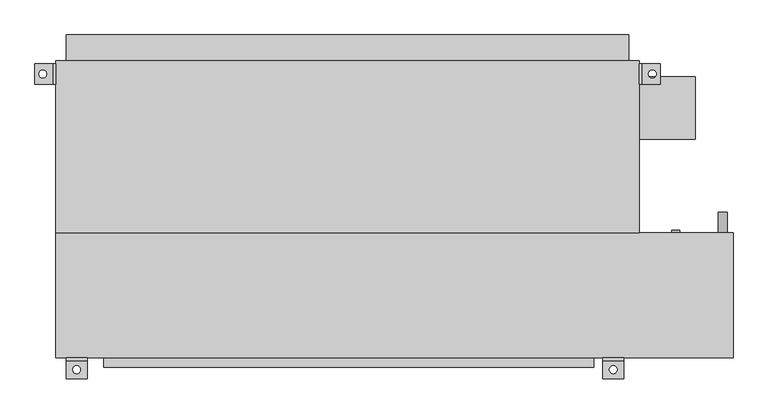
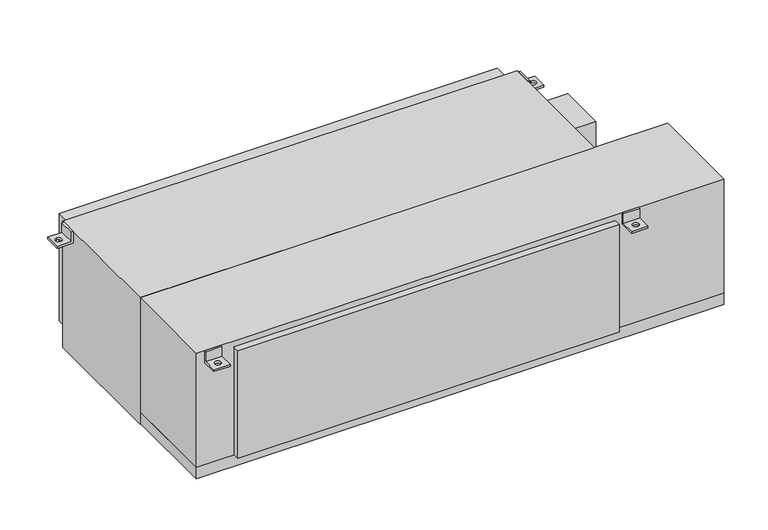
"""IFC4 building model written with IfcOpenShell, lengths in millimetres: proxy geometry, Concealed_High_Capacity_Horizontal_Fan_Coil_Unit_With_Plenum_-_42DCA_-_CARRIER_-_2-Pipe_Cool-EHeat_ValveEnclosure_RH_2022 : Size 20 - 277v/60Hz/1Ph - 6 Row 14.0kW."""

from ifc_helpers import new_model, si_unit, point, frame, frame_2d, origin, place, context, project, spatial, polyline, circle_curve, trimmed, segment, composite_curve, outline, extrude, source, transform, mapped, element, save
from ifc_brep_helpers import plane_surface, revolved_surface, advanced_brep


def mechanical_equipment_af64897e(model_context):
    return source(origin(), model_context, "Body", "SolidModel", [
        advanced_brep(
        [(825.5, -390.525, 0.0), (825.5, -396.875, 0.0), (825.5, -396.875, -31.75), (825.5, -441.325, -31.75), (825.5, -441.325, -38.1), (825.5, -390.525, -38.1), (774.7, -390.525, 0.0), (774.7, -390.525, -38.1), (774.7, -441.325, -38.1), (774.7, -441.325, -31.75), (774.7, -396.875, -31.75), (774.7, -396.875, 0.0), (790.575, -419.1, -31.75), (809.625, -419.1, -31.75), (809.625, -419.1, -38.1), (790.575, -419.1, -38.1)],
        [
            (0, 1),
            (1, 2),
            (2, 3),
            (3, 4),
            (4, 5),
            (5, 0),
            (6, 7),
            (7, 8),
            (8, 9),
            (9, 10),
            (10, 11),
            (11, 6),
            (0, 6),
            (11, 1),
            (10, 2),
            (9, 3),
            (12, 13, circle_curve(frame((800.1, -419.1, -31.75), z_axis=(0.0, 0.0, -1.0), x_axis=(1.0, 0.0, 0.0)), 9.525)),
            (13, 12, circle_curve(frame((800.1, -419.1, -31.75), z_axis=(0.0, 0.0, -1.0), x_axis=(1.0, 0.0, 0.0)), 9.525)),
            (8, 4),
            (7, 5),
            (14, 15, circle_curve(frame((800.1, -419.1, -38.1), z_axis=(0.0, 0.0, 1.0), x_axis=(1.0, 0.0, 0.0)), 9.525)),
            (15, 14, circle_curve(frame((800.1, -419.1, -38.1), z_axis=(0.0, 0.0, 1.0), x_axis=(1.0, 0.0, 0.0)), 9.525)),
            (12, 15),
            (14, 13),
        ],
        [
            plane_surface(frame((825.5, -396.875, 0.0), z_axis=(1.0, 0.0, 0.0), x_axis=(0.0, -1.0, 0.0))),
            plane_surface(frame((774.7, -396.875, 0.0), z_axis=(-1.0, 0.0, 0.0), x_axis=(0.0, 1.0, 0.0))),
            plane_surface(frame((825.5, -390.525, 0.0), z_axis=(0.0, 0.0, 1.0), x_axis=(-1.0, 0.0, 0.0))),
            plane_surface(frame((825.5, -396.875, 0.0), z_axis=(0.0, -1.0, 0.0), x_axis=(-1.0, 0.0, 0.0))),
            plane_surface(frame((825.5, -396.875, -31.75), z_axis=(0.0, 0.0, 1.0), x_axis=(-1.0, 0.0, 0.0))),
            plane_surface(frame((825.5, -441.325, -31.75), z_axis=(0.0, -1.0, 0.0), x_axis=(-1.0, 0.0, 0.0))),
            plane_surface(frame((825.5, -441.325, -38.1), z_axis=(0.0, 0.0, -1.0), x_axis=(-1.0, 0.0, 0.0))),
            plane_surface(frame((825.5, -390.525, -38.1), z_axis=(0.0, 1.0, 0.0), x_axis=(-1.0, 0.0, 0.0))),
            revolved_surface(polyline([(809.625, -419.1, -38.1), (809.625, -419.1, -31.75)]), (800.1, -419.1, -31.75), (0.0, 0.0, -1.0)),
        ],
        [
            (0, [[1, 2, 3, 4, 5, 6]]),
            (1, [[7, 8, 9, 10, 11, 12]]),
            (2, [[-1, 13, -12, 14]]),
            (3, [[-2, -14, -11, 15]]),
            (4, [[-3, -15, -10, 16], [17, 18]]),
            (5, [[-4, -16, -9, 19]]),
            (6, [[-5, -19, -8, 20], [21, 22]]),
            (7, [[-6, -20, -7, -13]]),
            (8, [[23, -21, 24, -17]]),
            (8, [[-23, -18, -24, -22]]),
        ],
    ),
        advanced_brep(
        [(-482.6, -390.525, -38.1), (-482.6, -390.525, 0.0), (-482.6, -396.875, 0.0), (-482.6, -396.875, -31.75), (-482.6, -441.325, -31.75), (-482.6, -441.325, -38.1), (-533.4, -390.525, -38.1), (-533.4, -441.325, -38.1), (-533.4, -441.325, -31.75), (-533.4, -396.875, -31.75), (-533.4, -396.875, 0.0), (-533.4, -390.525, 0.0), (-517.525, -419.1, -31.75), (-498.475, -419.1, -31.75), (-498.475, -419.1, -38.1), (-517.525, -419.1, -38.1)],
        [
            (0, 1),
            (1, 2),
            (2, 3),
            (3, 4),
            (4, 5),
            (5, 0),
            (6, 7),
            (7, 8),
            (8, 9),
            (9, 10),
            (10, 11),
            (11, 6),
            (0, 6),
            (11, 1),
            (10, 2),
            (9, 3),
            (8, 4),
            (12, 13, circle_curve(frame((-508.0, -419.1, -31.75), z_axis=(0.0, 0.0, -1.0), x_axis=(1.0, 0.0, 0.0)), 9.525)),
            (13, 12, circle_curve(frame((-508.0, -419.1, -31.75), z_axis=(0.0, 0.0, -1.0), x_axis=(1.0, 0.0, 0.0)), 9.525)),
            (7, 5),
            (14, 15, circle_curve(frame((-508.0, -419.1, -38.1), z_axis=(0.0, 0.0, 1.0), x_axis=(1.0, 0.0, 0.0)), 9.525)),
            (15, 14, circle_curve(frame((-508.0, -419.1, -38.1), z_axis=(0.0, 0.0, 1.0), x_axis=(1.0, 0.0, 0.0)), 9.525)),
            (12, 15),
            (14, 13),
        ],
        [
            plane_surface(frame((-482.6, -390.525, -38.1), z_axis=(1.0, 0.0, 0.0), x_axis=(0.0, 0.0, 1.0))),
            plane_surface(frame((-533.4, -390.525, -38.1), z_axis=(-1.0, 0.0, 0.0), x_axis=(0.0, 0.0, -1.0))),
            plane_surface(frame((-482.6, -390.525, -38.1), z_axis=(0.0, 1.0, 0.0), x_axis=(-1.0, 0.0, 0.0))),
            plane_surface(frame((-482.6, -390.525, 0.0), z_axis=(0.0, 0.0, 1.0), x_axis=(-1.0, 0.0, 0.0))),
            plane_surface(frame((-482.6, -396.875, 0.0), z_axis=(0.0, -1.0, 0.0), x_axis=(-1.0, 0.0, 0.0))),
            plane_surface(frame((-482.6, -396.875, -31.75), z_axis=(0.0, 0.0, 1.0), x_axis=(-1.0, 0.0, 0.0))),
            plane_surface(frame((-482.6, -441.325, -31.75), z_axis=(0.0, -1.0, 0.0), x_axis=(-1.0, 0.0, 0.0))),
            plane_surface(frame((-482.6, -441.325, -38.1), z_axis=(0.0, 0.0, -1.0), x_axis=(-1.0, 0.0, 0.0))),
            revolved_surface(polyline([(-498.475, -419.1, -38.1), (-498.475, -419.1, -31.75)]), (-508.0, -419.1, -31.75), (0.0, 0.0, -1.0)),
        ],
        [
            (0, [[1, 2, 3, 4, 5, 6]]),
            (1, [[7, 8, 9, 10, 11, 12]]),
            (2, [[-1, 13, -12, 14]]),
            (3, [[-2, -14, -11, 15]]),
            (4, [[-3, -15, -10, 16]]),
            (5, [[-4, -16, -9, 17], [18, 19]]),
            (6, [[-5, -17, -8, 20]]),
            (7, [[-6, -20, -7, -13], [21, 22]]),
            (8, [[23, -21, 24, -18]]),
            (8, [[-23, -19, -24, -22]]),
        ],
    ),
        extrude(outline(composite_curve([segment(trimmed(circle_curve(frame_2d((-400.05, 1066.8)), 11.1125), [point((-400.05, 1055.6875))], [point((-400.05, 1077.9125))], False, "CARTESIAN"), True, "CONTINUOUS"), segment(trimmed(circle_curve(frame_2d((-400.05, 1066.8)), 11.1125), [point((-400.05, 1077.9125))], [point((-400.05, 1055.6875))], False, "CARTESIAN"), True, "CONTINUOUS")], self_intersect=False)), frame((0.0, -85.725, 0.0), z_axis=(0.0, 1.0, 0.0), x_axis=(0.0, 0.0, 1.0)), (0.0, 0.0, 1.0), 50.8),
        extrude(outline(composite_curve([segment(trimmed(circle_curve(frame_2d((-44.45, 952.5)), 9.525), [point((-44.45, 942.975))], [point((-44.45, 962.025))], False, "CARTESIAN"), True, "CONTINUOUS"), segment(trimmed(circle_curve(frame_2d((-44.45, 952.5)), 9.525), [point((-44.45, 962.025))], [point((-44.45, 942.975))], False, "CARTESIAN"), True, "CONTINUOUS")], self_intersect=False)), frame((0.0, -85.725, 0.0), z_axis=(0.0, 1.0, 0.0), x_axis=(0.0, 0.0, 1.0)), (0.0, 0.0, 1.0), 6.35),
        extrude(outline(composite_curve([segment(trimmed(circle_curve(frame_2d((-276.225, 952.5)), 9.525), [point((-276.225, 942.975))], [point((-276.225, 962.025))], False, "CARTESIAN"), True, "CONTINUOUS"), segment(trimmed(circle_curve(frame_2d((-276.225, 952.5)), 9.525), [point((-276.225, 962.025))], [point((-276.225, 942.975))], False, "CARTESIAN"), True, "CONTINUOUS")], self_intersect=False)), frame((0.0, -85.725, 0.0), z_axis=(0.0, 1.0, 0.0), x_axis=(0.0, 0.0, 1.0)), (0.0, 0.0, 1.0), 6.35),
        advanced_brep(
        [(-558.8, 327.025, -38.1), (-609.6, 327.025, -38.1), (-609.6, 327.025, -31.75), (-565.15, 327.025, -31.75), (-565.15, 327.025, 0.0), (-558.8, 327.025, 0.0), (-558.8, 276.225, -38.1), (-558.8, 276.225, 0.0), (-565.15, 276.225, 0.0), (-565.15, 276.225, -31.75), (-609.6, 276.225, -31.75), (-609.6, 276.225, -38.1), (-590.55, 292.1, -38.1), (-590.55, 311.15, -38.1), (-590.55, 311.15, -31.75), (-590.55, 292.1, -31.75)],
        [
            (0, 1),
            (1, 2),
            (2, 3),
            (3, 4),
            (4, 5),
            (5, 0),
            (6, 7),
            (7, 8),
            (8, 9),
            (9, 10),
            (10, 11),
            (11, 6),
            (0, 6),
            (11, 1),
            (12, 13, circle_curve(frame((-590.55, 301.625, -38.1), z_axis=(0.0, 0.0, 1.0), x_axis=(0.0, -1.0, 0.0)), 9.525)),
            (13, 12, circle_curve(frame((-590.55, 301.625, -38.1), z_axis=(0.0, 0.0, 1.0), x_axis=(0.0, -1.0, 0.0)), 9.525)),
            (10, 2),
            (9, 3),
            (14, 15, circle_curve(frame((-590.55, 301.625, -31.75), z_axis=(0.0, 0.0, -1.0), x_axis=(0.0, -1.0, 0.0)), 9.525)),
            (15, 14, circle_curve(frame((-590.55, 301.625, -31.75), z_axis=(0.0, 0.0, -1.0), x_axis=(0.0, -1.0, 0.0)), 9.525)),
            (8, 4),
            (7, 5),
            (14, 13),
            (12, 15),
        ],
        [
            plane_surface(frame((-558.8, 327.025, -38.1), z_axis=(0.0, 1.0, 0.0), x_axis=(-1.0, 0.0, 0.0))),
            plane_surface(frame((-558.8, 276.225, -38.1), z_axis=(0.0, -1.0, 0.0), x_axis=(1.0, 0.0, 0.0))),
            plane_surface(frame((-558.8, 327.025, -38.1), z_axis=(0.0, 0.0, -1.0), x_axis=(0.0, -1.0, 0.0))),
            plane_surface(frame((-609.6, 327.025, -38.1), z_axis=(-1.0, 0.0, 0.0), x_axis=(0.0, -1.0, 0.0))),
            plane_surface(frame((-609.6, 327.025, -31.75), z_axis=(0.0, 0.0, 1.0), x_axis=(0.0, -1.0, 0.0))),
            plane_surface(frame((-565.15, 327.025, -31.75), z_axis=(-1.0, 0.0, 0.0), x_axis=(0.0, -1.0, 0.0))),
            plane_surface(frame((-565.15, 327.025, 0.0), z_axis=(0.0, 0.0, 1.0), x_axis=(0.0, -1.0, 0.0))),
            plane_surface(frame((-558.8, 327.025, 0.0), z_axis=(1.0, 0.0, 0.0), x_axis=(0.0, -1.0, 0.0))),
            revolved_surface(polyline([(-590.55, 292.1, -38.1), (-590.55, 292.1, -31.75)]), (-590.55, 301.625, -31.75), (0.0, 0.0, -1.0)),
        ],
        [
            (0, [[1, 2, 3, 4, 5, 6]]),
            (1, [[7, 8, 9, 10, 11, 12]]),
            (2, [[-1, 13, -12, 14], [15, 16]]),
            (3, [[-2, -14, -11, 17]]),
            (4, [[-3, -17, -10, 18], [19, 20]]),
            (5, [[-4, -18, -9, 21]]),
            (6, [[-5, -21, -8, 22]]),
            (7, [[-6, -22, -7, -13]]),
            (8, [[23, -15, 24, -19]]),
            (8, [[-23, -20, -24, -16]]),
        ],
    ),
        advanced_brep(
        [(863.6, 327.025, -38.1), (863.6, 327.025, 0.0), (869.95, 327.025, 0.0), (869.95, 327.025, -31.75), (914.4, 327.025, -31.75), (914.4, 327.025, -38.1), (863.6, 276.225, -38.1), (914.4, 276.225, -38.1), (914.4, 276.225, -31.75), (869.95, 276.225, -31.75), (869.95, 276.225, 0.0), (863.6, 276.225, 0.0), (895.35, 311.15, -31.75), (895.35, 292.1, -31.75), (895.35, 292.1, -38.1), (895.35, 311.15, -38.1)],
        [
            (0, 1),
            (1, 2),
            (2, 3),
            (3, 4),
            (4, 5),
            (5, 0),
            (6, 7),
            (7, 8),
            (8, 9),
            (9, 10),
            (10, 11),
            (11, 6),
            (0, 6),
            (11, 1),
            (10, 2),
            (9, 3),
            (8, 4),
            (12, 13, circle_curve(frame((895.35, 301.625, -31.75), z_axis=(0.0, 0.0, -1.0), x_axis=(0.0, -1.0, 0.0)), 9.525)),
            (13, 12, circle_curve(frame((895.35, 301.625, -31.75), z_axis=(0.0, 0.0, -1.0), x_axis=(0.0, -1.0, 0.0)), 9.525)),
            (7, 5),
            (14, 15, circle_curve(frame((895.35, 301.625, -38.1), z_axis=(0.0, 0.0, 1.0), x_axis=(0.0, -1.0, 0.0)), 9.525)),
            (15, 14, circle_curve(frame((895.35, 301.625, -38.1), z_axis=(0.0, 0.0, 1.0), x_axis=(0.0, -1.0, 0.0)), 9.525)),
            (12, 15),
            (14, 13),
        ],
        [
            plane_surface(frame((-558.8, 327.025, -38.1), z_axis=(0.0, 1.0, 0.0), x_axis=(-1.0, 0.0, 0.0))),
            plane_surface(frame((-558.8, 276.225, -38.1), z_axis=(0.0, -1.0, 0.0), x_axis=(1.0, 0.0, 0.0))),
            plane_surface(frame((863.6, 327.025, -38.1), z_axis=(-1.0, 0.0, 0.0), x_axis=(0.0, -1.0, 0.0))),
            plane_surface(frame((863.6, 327.025, 0.0), z_axis=(0.0, 0.0, 1.0), x_axis=(0.0, -1.0, 0.0))),
            plane_surface(frame((869.95, 327.025, 0.0), z_axis=(1.0, 0.0, 0.0), x_axis=(0.0, -1.0, 0.0))),
            plane_surface(frame((869.95, 327.025, -31.75), z_axis=(0.0, 0.0, 1.0), x_axis=(0.0, -1.0, 0.0))),
            plane_surface(frame((914.4, 327.025, -31.75), z_axis=(1.0, 0.0, 0.0), x_axis=(0.0, -1.0, 0.0))),
            plane_surface(frame((914.4, 327.025, -38.1), z_axis=(0.0, 0.0, -1.0), x_axis=(0.0, -1.0, 0.0))),
            revolved_surface(polyline([(895.35, 292.1, -38.1), (895.35, 292.1, -31.75)]), (895.35, 301.625, -31.75), (0.0, 0.0, -1.0)),
        ],
        [
            (0, [[1, 2, 3, 4, 5, 6]]),
            (1, [[7, 8, 9, 10, 11, 12]]),
            (2, [[-1, 13, -12, 14]]),
            (3, [[-2, -14, -11, 15]]),
            (4, [[-3, -15, -10, 16]]),
            (5, [[-4, -16, -9, 17], [18, 19]]),
            (6, [[-5, -17, -8, 20]]),
            (7, [[-6, -20, -7, -13], [21, 22]]),
            (8, [[23, -21, 24, -18]]),
            (8, [[-23, -19, -24, -22]]),
        ],
    ),
        extrude(outline(polyline([(-533.4, 396.875), (838.2, 396.875), (838.2, 333.375), (-533.4, 333.375), (-533.4, 396.875)])), frame((0.0, 0.0, -377.825), z_axis=(0.0, 0.0, 1.0), x_axis=(1.0, 0.0, 0.0)), (0.0, 0.0, 1.0), 355.6),
        extrude(outline(polyline([(1000.125, 295.275), (1000.125, 142.875), (863.6, 142.875), (863.6, 295.275), (1000.125, 295.275)])), frame((0.0, 0.0, -254.0), z_axis=(0.0, 0.0, 1.0), x_axis=(1.0, 0.0, 0.0)), (0.0, 0.0, 1.0), 152.4),
        extrude(outline(polyline([(752.475, -412.75), (-441.325, -412.75), (-441.325, -390.525), (752.475, -390.525), (752.475, -412.75)])), frame((0.0, 0.0, -374.65), z_axis=(0.0, 0.0, 1.0), x_axis=(1.0, 0.0, 0.0)), (0.0, 0.0, 1.0), 355.6),
        extrude(outline(polyline([(863.6, -85.725), (-558.8, -85.725), (-558.8, 333.375), (863.6, 333.375), (863.6, -85.725)])), frame((0.0, 0.0, -419.1), z_axis=(0.0, 0.0, 1.0), x_axis=(1.0, 0.0, 0.0)), (0.0, 0.0, 1.0), 419.1),
        extrude(outline(polyline([(1092.2, -85.725), (1092.2, -390.525), (-558.8, -390.525), (-558.8, -85.725), (1092.2, -85.725)])), frame((0.0, 0.0, -377.825), z_axis=(0.0, 0.0, 1.0), x_axis=(1.0, 0.0, 0.0)), (0.0, 0.0, 1.0), 377.825),
        extrude(outline(polyline([(1092.2, -85.725), (1092.2, -390.525), (-558.8, -390.525), (-558.8, -85.725), (1092.2, -85.725)])), frame((0.0, 0.0, -415.925), z_axis=(0.0, 0.0, 1.0), x_axis=(1.0, 0.0, 0.0)), (0.0, 0.0, 1.0), 38.1),
    ])


if __name__ == "__main__":
    model = new_model("IFC4")
    model_context = context("Model", 3, world=origin())
    ifc_project = project(units=[si_unit("LENGTHUNIT", "METRE", prefix="MILLI")], contexts=[model_context])
    site = spatial("IfcSite", under=ifc_project)
    building = spatial("IfcBuilding", under=site)
    placement = place(None, origin())
    mechanical_equipment_shape = mechanical_equipment_af64897e(model_context)
    element("IfcBuildingElementProxy", 1, Name="Concealed_High_Capacity_Horizontal_Fan_Coil_Unit_With_Plenum_-_42DCA_-_CARRIER_-_2-Pipe_Cool-EHeat_ValveEnclosure_RH_2022 : Size 20 - 277v/60Hz/1Ph - 6 Row 14.0kW", ObjectType="Concealed_High_Capacity_Horizontal_Fan_Coil_Unit_With_Plenum_-_42DCA_-_CARRIER_-_2-Pipe_Cool-EHeat_ValveEnclosure_RH_2022 : Size 20 - 277v/60Hz/1Ph - 6 Row 14.0kW", at=placement, inside=building, context=model_context, shape_type="MappedRepresentation", body=[
        mapped(mechanical_equipment_shape, transform((0.0, 0.0, 0.0), x_axis=(1.0, 0.0, 0.0), y_axis=(0.0, 1.0, 0.0), z_axis=(0.0, 0.0, 1.0))),
    ])
    save(model, "model.ifc")
